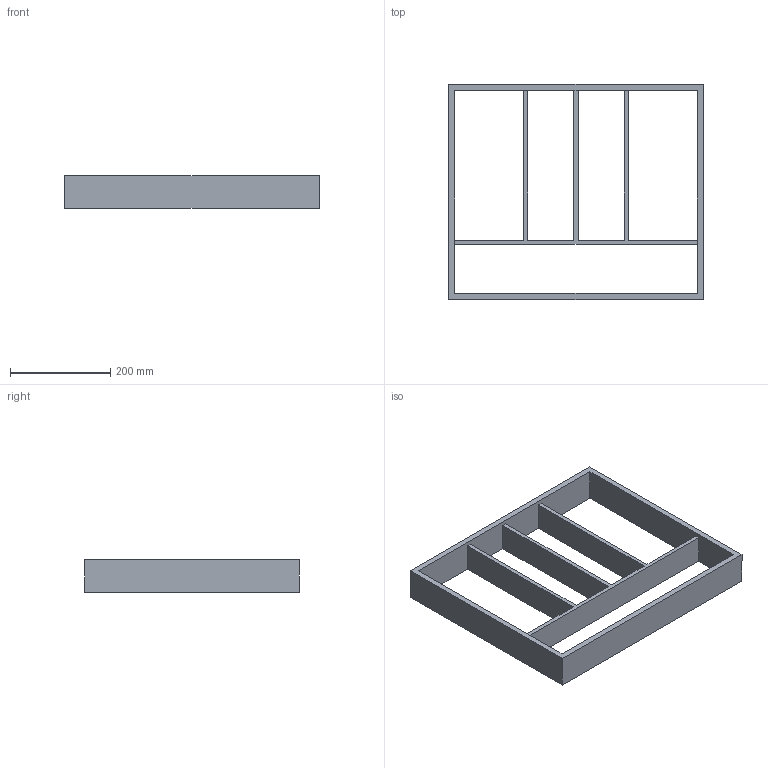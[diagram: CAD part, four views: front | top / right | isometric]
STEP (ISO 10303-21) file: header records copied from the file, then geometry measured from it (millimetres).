
FILE_DESCRIPTION (( 'STEP AP214' ), '1' );
FILE_NAME ('Vario Multi NL450_B600_16 mm_Buche.step', '2010-10-07T06:24:17', ( 'grass' ), ( '' ), 'SwSTEP 2.0', 'SolidWorks 2010', '' );
FILE_SCHEMA (( 'AUTOMOTIVE_DESIGN' ));
Length unit declared in the file: millimetre
Products named in the file (1): Vario Multi NL450_B600_16 mm_Buche
Bounding box: 508 x 429 x 65 mm (x, y, z)
Volume: 2053742.4 mm3; surface area: 457008 mm2
Topology: 1 solids, 1 shells, 22 faces, 72 edges, 48 vertices
Faces by surface type: plane 22
Entity records: 830 total; most frequent: ORIENTED_EDGE 144, CARTESIAN_POINT 143, DIRECTION 118, EDGE_CURVE 72, VECTOR 72, LINE 72, VERTEX_POINT 48, EDGE_LOOP 28
